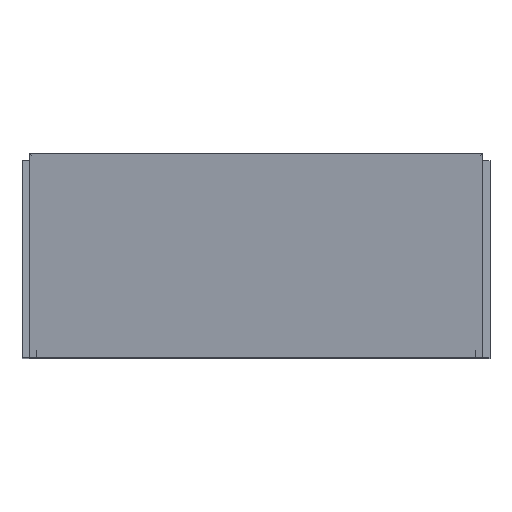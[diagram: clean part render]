
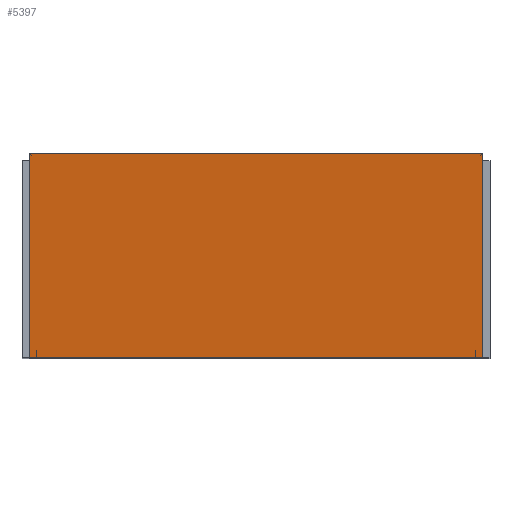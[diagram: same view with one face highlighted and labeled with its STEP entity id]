
A CAD part, top view. The second image highlights one B-rep face of the part: STEP entity #5397.
In plain terms, the highlighted planar face has unit normal (0, -0.118, 0.993).
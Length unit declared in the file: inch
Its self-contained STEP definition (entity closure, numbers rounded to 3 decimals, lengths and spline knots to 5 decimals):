
#1235=FACE_OUTER_BOUND('',#1540,.T.);
#1540=EDGE_LOOP('',(#4307,#4308,#4309,#4310));
#1995=LINE('',#8540,#2520);
#1999=LINE('',#8547,#2524);
#2000=LINE('',#8550,#2525);
#2001=LINE('',#8551,#2526);
#2520=VECTOR('',#6863,0.3937);
#2524=VECTOR('',#6869,0.3937);
#2525=VECTOR('',#6872,0.3937);
#2526=VECTOR('',#6873,0.3937);
#2969=VERTEX_POINT('',#8537);
#2970=VERTEX_POINT('',#8539);
#2972=VERTEX_POINT('',#8545);
#2973=VERTEX_POINT('',#8549);
#3453=EDGE_CURVE('',#2970,#2969,#1995,.T.);
#3457=EDGE_CURVE('',#2972,#2969,#1999,.T.);
#3458=EDGE_CURVE('',#2970,#2973,#2000,.T.);
#3459=EDGE_CURVE('',#2973,#2972,#2001,.T.);
#4307=ORIENTED_EDGE('',*,*,#3458,.F.);
#4308=ORIENTED_EDGE('',*,*,#3453,.T.);
#4309=ORIENTED_EDGE('',*,*,#3457,.F.);
#4310=ORIENTED_EDGE('',*,*,#3459,.F.);
#5139=PLANE('',#6037);
#5397=ADVANCED_FACE('',(#1235),#5139,.T.);
#6037=AXIS2_PLACEMENT_3D('',#8548,#6870,#6871);
#6863=DIRECTION('',(1.,0.,0.));
#6869=DIRECTION('',(0.,-0.993,-0.118));
#6870=DIRECTION('center_axis',(0.,-0.118,0.993));
#6871=DIRECTION('ref_axis',(0.,-0.993,-0.118));
#6872=DIRECTION('',(0.,0.993,0.118));
#6873=DIRECTION('',(1.,0.,0.));
#8537=CARTESIAN_POINT('',(1.5,-27.93976,2.72675));
#8539=CARTESIAN_POINT('',(-91.5,-27.93976,2.72675));
#8540=CARTESIAN_POINT('',(-51.,-27.93976,2.72675));
#8545=CARTESIAN_POINT('',(1.5,14.06024,7.72677));
#8547=CARTESIAN_POINT('',(1.5,3.51591,6.47149));
#8548=CARTESIAN_POINT('Origin',(-51.,14.06024,7.72677));
#8549=CARTESIAN_POINT('',(-91.5,14.06024,7.72677));
#8550=CARTESIAN_POINT('',(-91.5,3.51591,6.47149));
#8551=CARTESIAN_POINT('',(-51.,14.06024,7.72677));
